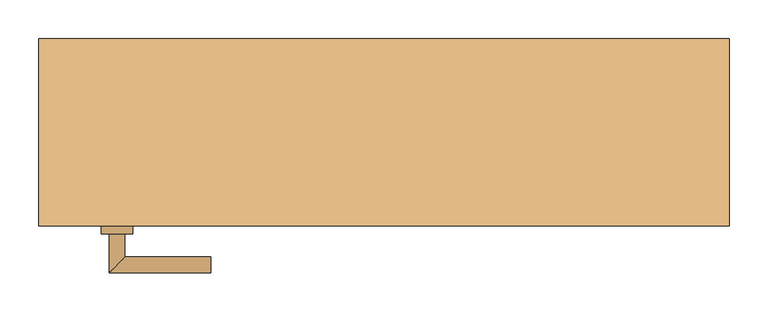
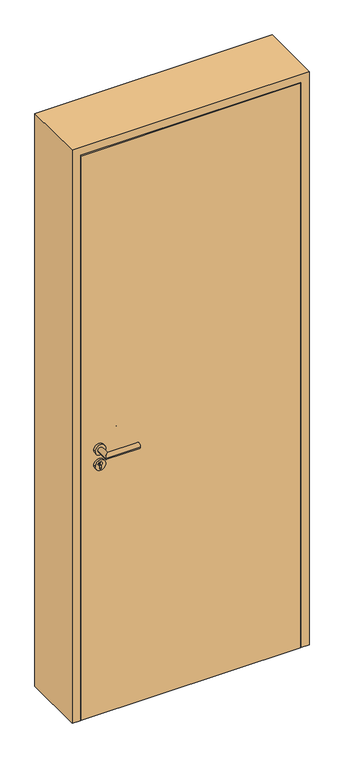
"""IFC4 building model written with IfcOpenShell, lengths in millimetres: door geometry, TU DF 1 - Rahmenstock flächenbündig variabel : ML - H - 885 x 2260."""

from ifc_helpers import new_model, si_unit, point, frame, frame_2d, origin, origin_with_axes, place, context, project, spatial, polyline, circle_curve, ellipse_curve, trimmed, segment, composite_curve, outline, extrude, faceted_brep, source, transform, mapped, element, save
from ifc_brep_helpers import plane_surface, cylinder_surface, advanced_brep


def door_a362e75e(model_context):
    return source(origin(), model_context, "Body", "SolidModel", [
        extrude(outline(polyline([(408.5, -120.0), (-408.5, -120.0), (-408.5, -75.0), (408.5, -75.0), (408.5, -120.0)])), origin_with_axes(), (0.0, 0.0, 1.0), 2226.0),
        advanced_brep(
        [(-332.5, -130.0, 1050.0), (-352.5, -130.0, 1050.0), (-352.5, -180.0, 1050.0), (-332.5, -160.0, 1050.0), (-222.5, -160.0, 1050.0), (-222.5, -180.0, 1050.0)],
        [
            (0, 1, circle_curve(frame((-342.5, -130.0, 1050.0), z_axis=(0.0, 1.0, 0.0), x_axis=(-1.0, 0.0, 0.0)), 10.0)),
            (1, 0, circle_curve(frame((-342.5, -130.0, 1050.0), z_axis=(0.0, 1.0, 0.0), x_axis=(-1.0, 0.0, 0.0)), 10.0)),
            (1, 2),
            (2, 3, ellipse_curve(frame((-342.5, -170.0, 1050.0), z_axis=(-0.7071067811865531, 0.7071067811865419, 0.0), x_axis=(0.707106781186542, 0.707106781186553, 0.0)), 14.1421356, 10.0)),
            (3, 0),
            (3, 2, ellipse_curve(frame((-342.5, -170.0, 1050.0), z_axis=(-0.7071067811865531, 0.7071067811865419, 0.0), x_axis=(0.707106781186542, 0.707106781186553, 0.0)), 14.1421356, 10.0)),
            (4, 5, circle_curve(frame((-222.5, -170.0, 1050.0), z_axis=(1.0, 0.0, 0.0), x_axis=(0.0, -1.0, 0.0)), 10.0)),
            (5, 4, circle_curve(frame((-222.5, -170.0, 1050.0), z_axis=(1.0, 0.0, 0.0), x_axis=(0.0, -1.0, 0.0)), 10.0)),
            (2, 5),
            (4, 3),
        ],
        [
            plane_surface(frame((-342.5, -130.0, 1050.0), z_axis=(0.0, 1.0, 0.0), x_axis=(0.0, 0.0, 1.0))),
            cylinder_surface(frame((-342.5, -130.0, 1050.0), z_axis=(0.0, 1.0, 0.0), x_axis=(-1.0, 0.0, 0.0)), 10.0),
            plane_surface(frame((-222.5, -170.0, 1050.0), z_axis=(1.0, 0.0, 0.0), x_axis=(0.0, 0.0, 1.0))),
            cylinder_surface(frame((-342.5, -170.0, 1050.0), z_axis=(-1.0, 0.0, 0.0), x_axis=(0.0, -1.0, 0.0)), 10.0),
        ],
        [
            (0, [[1, 2]]),
            (1, [[3, 4, 5, -2]]),
            (1, [[-5, 6, -3, -1]]),
            (2, [[7, 8]]),
            (3, [[9, -7, 10, -4]]),
            (3, [[-10, -8, -9, -6]]),
        ],
    ),
        extrude(outline(composite_curve([segment(trimmed(circle_curve(frame_2d((990.0, -342.5)), 20.0), [point((990.0, -362.5))], [point((990.0, -322.5))], False, "CARTESIAN"), True, "CONTINUOUS"), segment(trimmed(circle_curve(frame_2d((990.0, -342.5)), 20.0), [point((990.0, -322.5))], [point((990.0, -362.5))], False, "CARTESIAN"), True, "CONTINUOUS")], self_intersect=False), holes=[composite_curve([segment(polyline([(976.4601385, -344.897268), (988.4749012, -344.897268)]), True, "CONTINUOUS"), segment(trimmed(circle_curve(frame_2d((995.0361633, -342.5)), 6.9854888), [point((988.4749012, -344.897268))], [point((988.4749012, -340.102732))], True, "CARTESIAN"), True, "CONTINUOUS"), segment(polyline([(988.4749012, -340.102732), (976.4601385, -340.102732)]), True, "CONTINUOUS"), segment(trimmed(circle_curve(frame_2d((976.4601385, -342.5)), 2.397268), [point((976.4601385, -340.102732))], [point((976.4601385, -344.897268))], True, "CARTESIAN"), True, "CONTINUOUS")], self_intersect=False)]), frame((0.0, -130.0, 0.0), z_axis=(0.0, 1.0, 0.0), x_axis=(0.0, 0.0, 1.0)), (0.0, 0.0, 1.0), 10.0),
        advanced_brep(
        [(-332.5, -130.0, 1050.0), (-352.5, -130.0, 1050.0), (-352.5, -180.0, 1050.0), (-332.5, -160.0, 1050.0), (-222.5, -160.0, 1050.0), (-222.5, -180.0, 1050.0)],
        [
            (0, 1, circle_curve(frame((-342.5, -130.0, 1050.0), z_axis=(0.0, 1.0, 0.0), x_axis=(-1.0, 0.0, 0.0)), 10.0)),
            (1, 0, circle_curve(frame((-342.5, -130.0, 1050.0), z_axis=(0.0, 1.0, 0.0), x_axis=(-1.0, 0.0, 0.0)), 10.0)),
            (1, 2),
            (2, 3, ellipse_curve(frame((-342.5, -170.0, 1050.0), z_axis=(-0.7071067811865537, 0.7071067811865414, 0.0), x_axis=(0.7071067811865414, 0.7071067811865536, 0.0)), 14.1421356, 10.0)),
            (3, 0),
            (3, 2, ellipse_curve(frame((-342.5, -170.0, 1050.0), z_axis=(-0.7071067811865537, 0.7071067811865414, 0.0), x_axis=(0.7071067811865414, 0.7071067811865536, 0.0)), 14.1421356, 10.0)),
            (4, 5, circle_curve(frame((-222.5, -170.0, 1050.0), z_axis=(1.0, 0.0, 0.0), x_axis=(0.0, -1.0, 0.0)), 10.0)),
            (5, 4, circle_curve(frame((-222.5, -170.0, 1050.0), z_axis=(1.0, 0.0, 0.0), x_axis=(0.0, -1.0, 0.0)), 10.0)),
            (2, 5),
            (4, 3),
        ],
        [
            plane_surface(frame((-342.5, -130.0, 1050.0), z_axis=(0.0, 1.0, 0.0), x_axis=(0.0, 0.0, 1.0))),
            cylinder_surface(frame((-342.5, -130.0, 1050.0), z_axis=(0.0, 1.0, 0.0), x_axis=(-1.0, 0.0, 0.0)), 10.0),
            plane_surface(frame((-222.5, -170.0, 1050.0), z_axis=(1.0, 0.0, 0.0), x_axis=(0.0, 0.0, 1.0))),
            cylinder_surface(frame((-342.5, -170.0, 1050.0), z_axis=(-1.0, 0.0, 0.0), x_axis=(0.0, -1.0, 0.0)), 10.0),
        ],
        [
            (0, [[1, 2]]),
            (1, [[3, 4, 5, -2]]),
            (1, [[-5, 6, -3, -1]]),
            (2, [[7, 8]]),
            (3, [[9, -7, 10, -4]]),
            (3, [[-10, -8, -9, -6]]),
        ],
    ),
        extrude(outline(composite_curve([segment(trimmed(circle_curve(frame_2d((1050.0, -342.5)), 20.0), [point((1050.0, -362.5))], [point((1050.0, -322.5))], False, "CARTESIAN"), True, "CONTINUOUS"), segment(trimmed(circle_curve(frame_2d((1050.0, -342.5)), 20.0), [point((1050.0, -322.5))], [point((1050.0, -362.5))], False, "CARTESIAN"), True, "CONTINUOUS")], self_intersect=False)), frame((0.0, -130.0, 0.0), z_axis=(0.0, 1.0, 0.0), x_axis=(0.0, 0.0, 1.0)), (0.0, 0.0, 1.0), 10.0),
        advanced_brep(
        [(-332.5, -65.0, 1050.0), (-352.5, -65.0, 1050.0), (-332.5, -35.0, 1050.0), (-352.5, -15.0, 1050.0), (-222.5, -35.0, 1050.0), (-222.5, -15.0, 1050.0)],
        [
            (0, 1, circle_curve(frame((-342.5, -65.0, 1050.0), z_axis=(0.0, -1.0, 0.0), x_axis=(-1.0, 0.0, 0.0)), 10.0)),
            (1, 0, circle_curve(frame((-342.5, -65.0, 1050.0), z_axis=(0.0, -1.0, 0.0), x_axis=(-1.0, 0.0, 0.0)), 10.0)),
            (0, 2),
            (2, 3, ellipse_curve(frame((-342.5, -25.0, 1050.0), z_axis=(-0.7071067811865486, -0.7071067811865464, 0.0), x_axis=(0.7071067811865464, -0.7071067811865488, 0.0)), 14.1421356, 10.0)),
            (3, 1),
            (3, 2, ellipse_curve(frame((-342.5, -25.0, 1050.0), z_axis=(-0.7071067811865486, -0.7071067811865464, 0.0), x_axis=(0.7071067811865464, -0.7071067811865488, 0.0)), 14.1421356, 10.0)),
            (4, 5, circle_curve(frame((-222.5, -25.0, 1050.0), z_axis=(1.0, 0.0, 0.0), x_axis=(0.0, 1.0, 0.0)), 10.0)),
            (5, 4, circle_curve(frame((-222.5, -25.0, 1050.0), z_axis=(1.0, 0.0, 0.0), x_axis=(0.0, 1.0, 0.0)), 10.0)),
            (2, 4),
            (5, 3),
        ],
        [
            plane_surface(frame((-342.5, -65.0, 1050.0), z_axis=(0.0, -1.0, 0.0), x_axis=(0.0, 0.0, 1.0))),
            cylinder_surface(frame((-342.5, -65.0, 1050.0), z_axis=(0.0, -1.0, 0.0), x_axis=(-1.0, 0.0, 0.0)), 10.0),
            plane_surface(frame((-222.5, -25.0, 1050.0), z_axis=(1.0, 0.0, 0.0), x_axis=(0.0, 0.0, 1.0))),
            cylinder_surface(frame((-342.5, -25.0, 1050.0), z_axis=(-1.0, 0.0, 0.0), x_axis=(0.0, 1.0, 0.0)), 10.0),
        ],
        [
            (0, [[1, 2]]),
            (1, [[-1, 3, 4, 5]]),
            (1, [[-2, -5, 6, -3]]),
            (2, [[7, 8]]),
            (3, [[-4, 9, -8, 10]]),
            (3, [[-6, -10, -7, -9]]),
        ],
    ),
        extrude(outline(composite_curve([segment(trimmed(circle_curve(frame_2d((990.0, -342.5)), 20.0), [point((990.0, -362.5))], [point((990.0, -322.5))], False, "CARTESIAN"), True, "CONTINUOUS"), segment(trimmed(circle_curve(frame_2d((990.0, -342.5)), 20.0), [point((990.0, -322.5))], [point((990.0, -362.5))], False, "CARTESIAN"), True, "CONTINUOUS")], self_intersect=False), holes=[composite_curve([segment(polyline([(976.4601385, -344.897268), (988.4749012, -344.897268)]), True, "CONTINUOUS"), segment(trimmed(circle_curve(frame_2d((995.0361633, -342.5)), 6.9854888), [point((988.4749012, -344.897268))], [point((988.4749012, -340.102732))], True, "CARTESIAN"), True, "CONTINUOUS"), segment(polyline([(988.4749012, -340.102732), (976.4601385, -340.102732)]), True, "CONTINUOUS"), segment(trimmed(circle_curve(frame_2d((976.4601385, -342.5)), 2.397268), [point((976.4601385, -340.102732))], [point((976.4601385, -344.897268))], True, "CARTESIAN"), True, "CONTINUOUS")], self_intersect=False)]), frame((0.0, -75.0, 0.0), z_axis=(0.0, 1.0, 0.0), x_axis=(0.0, 0.0, 1.0)), (0.0, 0.0, 1.0), 10.0),
        advanced_brep(
        [(-332.5, -65.0, 1050.0), (-352.5, -65.0, 1050.0), (-332.5, -35.0, 1050.0), (-352.5, -15.0, 1050.0), (-222.5, -35.0, 1050.0), (-222.5, -15.0, 1050.0)],
        [
            (0, 1, circle_curve(frame((-342.5, -65.0, 1050.0), z_axis=(0.0, -1.0, 0.0), x_axis=(-1.0, 0.0, 0.0)), 10.0)),
            (1, 0, circle_curve(frame((-342.5, -65.0, 1050.0), z_axis=(0.0, -1.0, 0.0), x_axis=(-1.0, 0.0, 0.0)), 10.0)),
            (0, 2),
            (2, 3, ellipse_curve(frame((-342.5, -25.0, 1050.0), z_axis=(-0.7071067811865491, -0.7071067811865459, 0.0), x_axis=(0.7071067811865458, -0.7071067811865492, 0.0)), 14.1421356, 10.0)),
            (3, 1),
            (3, 2, ellipse_curve(frame((-342.5, -25.0, 1050.0), z_axis=(-0.7071067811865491, -0.7071067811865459, 0.0), x_axis=(0.7071067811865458, -0.7071067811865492, 0.0)), 14.1421356, 10.0)),
            (4, 5, circle_curve(frame((-222.5, -25.0, 1050.0), z_axis=(1.0, 0.0, 0.0), x_axis=(0.0, 1.0, 0.0)), 10.0)),
            (5, 4, circle_curve(frame((-222.5, -25.0, 1050.0), z_axis=(1.0, 0.0, 0.0), x_axis=(0.0, 1.0, 0.0)), 10.0)),
            (2, 4),
            (5, 3),
        ],
        [
            plane_surface(frame((-342.5, -65.0, 1050.0), z_axis=(0.0, -1.0, 0.0), x_axis=(0.0, 0.0, 1.0))),
            cylinder_surface(frame((-342.5, -65.0, 1050.0), z_axis=(0.0, -1.0, 0.0), x_axis=(-1.0, 0.0, 0.0)), 10.0),
            plane_surface(frame((-222.5, -25.0, 1050.0), z_axis=(1.0, 0.0, 0.0), x_axis=(0.0, 0.0, 1.0))),
            cylinder_surface(frame((-342.5, -25.0, 1050.0), z_axis=(-1.0, 0.0, 0.0), x_axis=(0.0, 1.0, 0.0)), 10.0),
        ],
        [
            (0, [[1, 2]]),
            (1, [[-1, 3, 4, 5]]),
            (1, [[-2, -5, 6, -3]]),
            (2, [[7, 8]]),
            (3, [[-4, 9, -8, 10]]),
            (3, [[-6, -10, -7, -9]]),
        ],
    ),
        extrude(outline(composite_curve([segment(trimmed(circle_curve(frame_2d((1050.0, -342.5)), 20.0), [point((1050.0, -362.5))], [point((1050.0, -322.5))], False, "CARTESIAN"), True, "CONTINUOUS"), segment(trimmed(circle_curve(frame_2d((1050.0, -342.5)), 20.0), [point((1050.0, -322.5))], [point((1050.0, -362.5))], False, "CARTESIAN"), True, "CONTINUOUS")], self_intersect=False)), frame((0.0, -75.0, 0.0), z_axis=(0.0, 1.0, 0.0), x_axis=(0.0, 0.0, 1.0)), (0.0, 0.0, 1.0), 10.0),
        faceted_brep([(-412.5, -120.0, 0.0), (-442.5, -120.0, 0.0), (-442.5, 120.0, 0.0), (-397.5, 120.0, 0.0), (-397.5, -75.0, 0.0), (-412.5, -75.0, 0.0), (-412.5, -75.0, 2230.0), (-412.5, -120.0, 2230.0), (-397.5, -75.0, 2215.0), (397.5, -75.0, 2215.0), (397.5, -75.0, 0.0), (412.5, -75.0, 0.0), (412.5, -75.0, 2230.0), (-397.5, 120.0, 2215.0), (-442.5, 120.0, 2260.0), (442.5, 120.0, 2260.0), (442.5, 120.0, 0.0), (397.5, 120.0, 0.0), (397.5, 120.0, 2215.0), (-442.5, -120.0, 2260.0), (412.5, -120.0, 2230.0), (412.5, -120.0, 0.0), (442.5, -120.0, 0.0), (442.5, -120.0, 2260.0)], [[[0, 1, 2, 3, 4, 5]], [[5, 6, 7, 0]], [[4, 8, 9, 10, 11, 12, 6, 5]], [[3, 13, 8, 4]], [[2, 14, 15, 16, 17, 18, 13, 3]], [[1, 19, 14, 2]], [[0, 7, 20, 21, 22, 23, 19, 1]], [[23, 22, 16, 15]], [[21, 11, 10, 17, 16, 22]], [[12, 11, 21, 20]], [[18, 17, 10, 9]], [[19, 23, 15, 14]], [[13, 18, 9, 8]], [[6, 12, 20, 7]]]),
    ])


if __name__ == "__main__":
    model = new_model("IFC4")
    model_context = context("Model", 3, world=origin())
    ifc_project = project(units=[si_unit("LENGTHUNIT", "METRE", prefix="MILLI")], contexts=[model_context])
    site = spatial("IfcSite", under=ifc_project)
    building = spatial("IfcBuilding", under=site)
    placement = place(None, origin())
    door_shape = door_a362e75e(model_context)
    element("IfcDoor", 1, ObjectType="TU DF 1 - Rahmenstock flächenbündig variabel : ML - H - 885 x 2260", at=placement, inside=building, context=model_context, shape_type="MappedRepresentation", body=[
        mapped(door_shape, transform((0.0, 0.0, 0.0), x_axis=(1.0, 0.0, 0.0), y_axis=(0.0, 1.0, 0.0), z_axis=(0.0, 0.0, 1.0))),
    ])
    save(model, "model.ifc")
